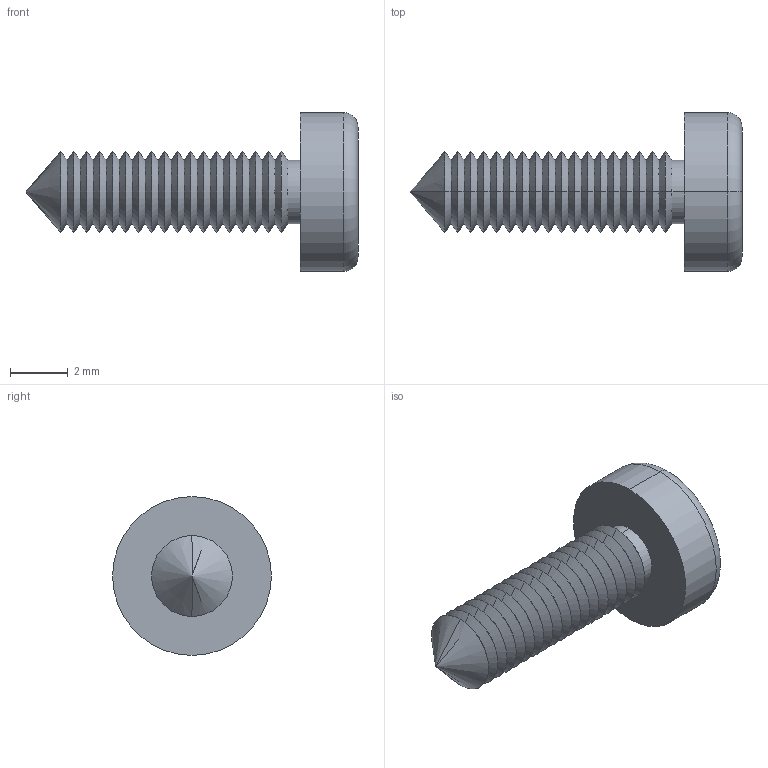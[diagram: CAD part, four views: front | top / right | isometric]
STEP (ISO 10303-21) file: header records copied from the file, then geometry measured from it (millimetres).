
FILE_DESCRIPTION (( 'STEP AP214' ), '1' );
FILE_NAME ('Cargol 2,9x 9,5 PP109.STEP', '2018-03-23T11:35:39', ( 'aaa' ), ( '' ), 'SwSTEP 2.0', 'SolidWorks 2013', '' );
FILE_SCHEMA (( 'AUTOMOTIVE_DESIGN' ));
Length unit declared in the file: millimetre
Products named in the file (1): Cargol 2,9x 9,5 PP109
Bounding box: 11.5 x 5.5 x 5.5 mm (x, y, z)
Volume: 88.8 mm3; surface area: 192.1 mm2
Topology: 1 solids, 1 shells, 93 faces, 196 edges, 105 vertices
Faces by surface type: cone 72, plane 15, cylinder 4, torus 2
Entity records: 2440 total; most frequent: DIRECTION 464, CARTESIAN_POINT 393, ORIENTED_EDGE 388, EDGE_CURVE 194, AXIS2_PLACEMENT_3D 176, LINE 112, VECTOR 112, VERTEX_POINT 105
